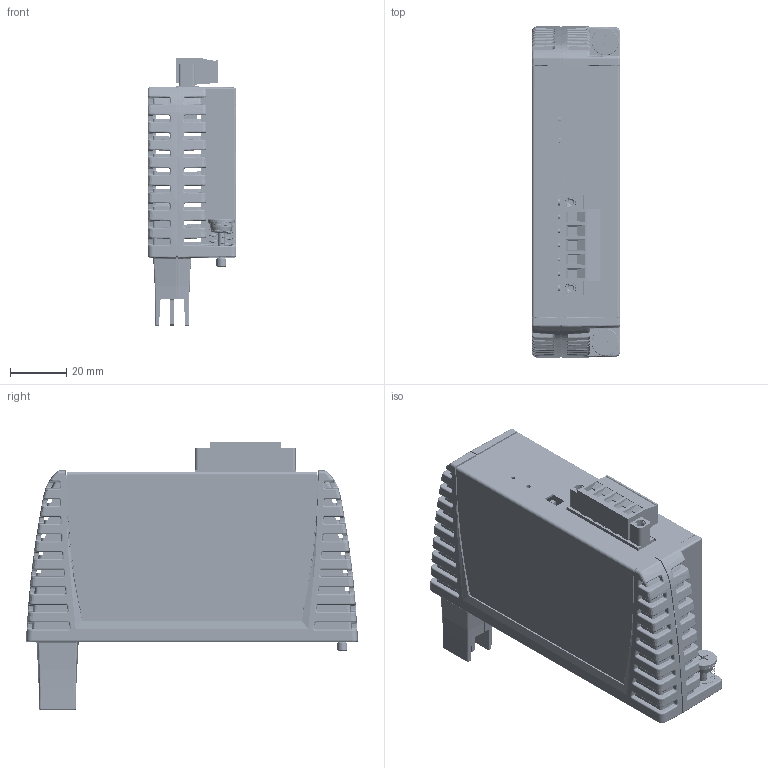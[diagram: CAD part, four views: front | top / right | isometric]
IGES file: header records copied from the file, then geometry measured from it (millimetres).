
Start section: SolidWorks IGES file using analytic representation for surfaces
Global section: file name: U:\ericp\3D_models_for_customers\Graphite\GMJ1939\RDLN001_Module Sub-Assembly.IGS; native system: SolidWorks 2013; preprocessor: SolidWorks 2013; author: ericp; date: 140521.103157; units: millimetre
Bounding box: 31.5 x 117.84 x 95.19 mm (x, y, z)
Surface area: 76603.7 mm2 (no closed solid volume)
Topology: 0 solids, 0 shells, 5562 faces, 47148 edges, 47113 vertices
Faces by surface type: bspline 3675, revolution 1887
